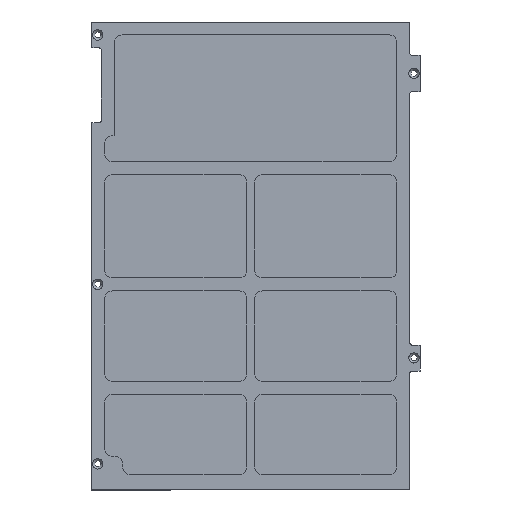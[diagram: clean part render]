
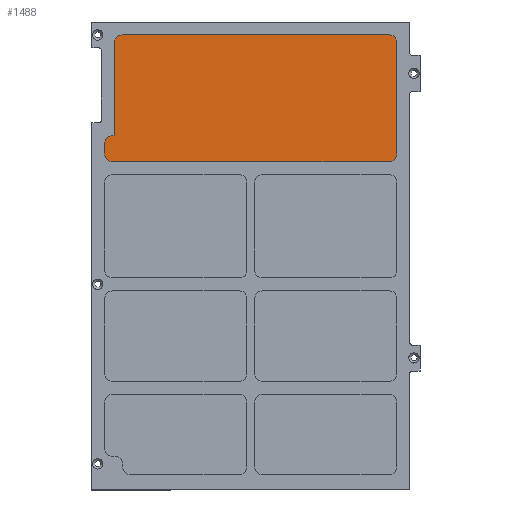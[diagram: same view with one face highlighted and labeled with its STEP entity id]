
A CAD part, top view. The second image highlights one B-rep face of the part: STEP entity #1488.
In plain terms, the highlighted planar face has unit normal (0, 0, 1).
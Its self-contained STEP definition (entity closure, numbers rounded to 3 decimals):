
#38 = DIRECTION ( 'NONE',  ( -1., 0., 0. ) ) ;
#145 = EDGE_CURVE ( 'NONE', #1898, #2933, #2318, .T. ) ;
#159 = CARTESIAN_POINT ( 'NONE',  ( 27.4, 122.9, 0.5 ) ) ;
#221 = DIRECTION ( 'NONE',  ( -1., 0., 0. ) ) ;
#229 = CARTESIAN_POINT ( 'NONE',  ( 134.4, 125.9, 0.5 ) ) ;
#244 = LINE ( 'NONE', #2405, #926 ) ;
#280 = EDGE_CURVE ( 'NONE', #2933, #3065, #3530, .T. ) ;
#380 = DIRECTION ( 'NONE',  ( 0., -1., 0. ) ) ;
#428 = LINE ( 'NONE', #2593, #3320 ) ;
#447 = CARTESIAN_POINT ( 'NONE',  ( 27.4, 129.9, 0.5 ) ) ;
#489 = DIRECTION ( 'NONE',  ( -1., 0., 0. ) ) ;
#541 = EDGE_CURVE ( 'NONE', #1796, #2878, #3395, .T. ) ;
#609 = DIRECTION ( 'NONE',  ( 1., 0., 0. ) ) ;
#614 = CARTESIAN_POINT ( 'NONE',  ( 134.4, 171.9, 0.5 ) ) ;
#691 = EDGE_CURVE ( 'NONE', #747, #2545, #1676, .T. ) ;
#714 = CARTESIAN_POINT ( 'NONE',  ( 0., 0., 0.5 ) ) ;
#735 = VECTOR ( 'NONE', #380, 1000. ) ;
#747 = VERTEX_POINT ( 'NONE', #1545 ) ;
#783 = ORIENTED_EDGE ( 'NONE', *, *, #145, .T. ) ;
#822 = CARTESIAN_POINT ( 'NONE',  ( 137.4, 168.9, 0.5 ) ) ;
#926 = VECTOR ( 'NONE', #2968, 1000. ) ;
#936 = CARTESIAN_POINT ( 'NONE',  ( 24.4, 132.9, 0.5 ) ) ;
#944 = LINE ( 'NONE', #2229, #2388 ) ;
#969 = ORIENTED_EDGE ( 'NONE', *, *, #3627, .F. ) ;
#983 = CARTESIAN_POINT ( 'NONE',  ( 24.4, 129.9, 0.5 ) ) ;
#1002 = DIRECTION ( 'NONE',  ( 0., 0., 1. ) ) ;
#1080 = ORIENTED_EDGE ( 'NONE', *, *, #2267, .T. ) ;
#1151 = CARTESIAN_POINT ( 'NONE',  ( 134.4, 122.9, 0.5 ) ) ;
#1165 = LINE ( 'NONE', #936, #2749 ) ;
#1235 = ORIENTED_EDGE ( 'NONE', *, *, #2310, .T. ) ;
#1274 = DIRECTION ( 'NONE',  ( 1., 0., 0. ) ) ;
#1377 = ORIENTED_EDGE ( 'NONE', *, *, #1631, .T. ) ;
#1406 = AXIS2_PLACEMENT_3D ( 'NONE', #2309, #2323, #609 ) ;
#1488 = ADVANCED_FACE ( 'NONE', ( #3032 ), #1856, .T. ) ;
#1507 = CARTESIAN_POINT ( 'NONE',  ( 27.4, 132.9, 0.5 ) ) ;
#1534 = DIRECTION ( 'NONE',  ( 0., 0., 1. ) ) ;
#1538 = ORIENTED_EDGE ( 'NONE', *, *, #2596, .T. ) ;
#1545 = CARTESIAN_POINT ( 'NONE',  ( 24.4, 125.9, 0.5 ) ) ;
#1546 = ORIENTED_EDGE ( 'NONE', *, *, #280, .T. ) ;
#1549 = EDGE_LOOP ( 'NONE', ( #969, #1538, #1235, #2433, #1080, #1377, #783, #1546, #2891, #3321, #2597 ) ) ;
#1562 = EDGE_CURVE ( 'NONE', #3065, #3478, #2020, .T. ) ;
#1631 = EDGE_CURVE ( 'NONE', #2082, #1898, #3255, .T. ) ;
#1641 = CARTESIAN_POINT ( 'NONE',  ( 31.1, 168.9, 0.5 ) ) ;
#1676 = CIRCLE ( 'NONE', #2513, 3. ) ;
#1692 = VERTEX_POINT ( 'NONE', #2263 ) ;
#1712 = AXIS2_PLACEMENT_3D ( 'NONE', #714, #1002, #1274 ) ;
#1745 = CARTESIAN_POINT ( 'NONE',  ( 28.1, 168.9, 0.5 ) ) ;
#1796 = VERTEX_POINT ( 'NONE', #822 ) ;
#1825 = CARTESIAN_POINT ( 'NONE',  ( 28.1, 171.9, 0.5 ) ) ;
#1856 = PLANE ( 'NONE',  #1712 ) ;
#1898 = VERTEX_POINT ( 'NONE', #1745 ) ;
#1908 = AXIS2_PLACEMENT_3D ( 'NONE', #447, #3324, #2775 ) ;
#2020 = CIRCLE ( 'NONE', #1908, 3. ) ;
#2082 = VERTEX_POINT ( 'NONE', #2472 ) ;
#2101 = CARTESIAN_POINT ( 'NONE',  ( 27.4, 125.9, 0.5 ) ) ;
#2129 = DIRECTION ( 'NONE',  ( 1., 0., 0. ) ) ;
#2136 = CIRCLE ( 'NONE', #3319, 3. ) ;
#2229 = CARTESIAN_POINT ( 'NONE',  ( 137.4, 122.9, 0.5 ) ) ;
#2246 = AXIS2_PLACEMENT_3D ( 'NONE', #1641, #3615, #3034 ) ;
#2263 = CARTESIAN_POINT ( 'NONE',  ( 137.4, 125.9, 0.5 ) ) ;
#2267 = EDGE_CURVE ( 'NONE', #2878, #2082, #428, .T. ) ;
#2309 = CARTESIAN_POINT ( 'NONE',  ( 134.4, 168.9, 0.5 ) ) ;
#2310 = EDGE_CURVE ( 'NONE', #1692, #1796, #244, .T. ) ;
#2318 = LINE ( 'NONE', #1825, #735 ) ;
#2323 = DIRECTION ( 'NONE',  ( 0., 0., 1. ) ) ;
#2388 = VECTOR ( 'NONE', #221, 1000. ) ;
#2405 = CARTESIAN_POINT ( 'NONE',  ( 137.4, 1.9, 0.5 ) ) ;
#2433 = ORIENTED_EDGE ( 'NONE', *, *, #541, .T. ) ;
#2472 = CARTESIAN_POINT ( 'NONE',  ( 31.1, 171.9, 0.5 ) ) ;
#2513 = AXIS2_PLACEMENT_3D ( 'NONE', #2101, #1534, #2129 ) ;
#2545 = VERTEX_POINT ( 'NONE', #159 ) ;
#2593 = CARTESIAN_POINT ( 'NONE',  ( 137.4, 171.9, 0.5 ) ) ;
#2596 = EDGE_CURVE ( 'NONE', #2833, #1692, #2136, .T. ) ;
#2597 = ORIENTED_EDGE ( 'NONE', *, *, #691, .T. ) ;
#2749 = VECTOR ( 'NONE', #3653, 1000. ) ;
#2758 = VECTOR ( 'NONE', #489, 1000. ) ;
#2775 = DIRECTION ( 'NONE',  ( 1., 0., 0. ) ) ;
#2812 = CARTESIAN_POINT ( 'NONE',  ( 28.1, 132.9, 0.5 ) ) ;
#2832 = DIRECTION ( 'NONE',  ( 1., 0., 0. ) ) ;
#2833 = VERTEX_POINT ( 'NONE', #1151 ) ;
#2878 = VERTEX_POINT ( 'NONE', #614 ) ;
#2891 = ORIENTED_EDGE ( 'NONE', *, *, #1562, .T. ) ;
#2933 = VERTEX_POINT ( 'NONE', #3448 ) ;
#2968 = DIRECTION ( 'NONE',  ( 0., 1., 0. ) ) ;
#3032 = FACE_OUTER_BOUND ( 'NONE', #1549, .T. ) ;
#3034 = DIRECTION ( 'NONE',  ( 1., 0., 0. ) ) ;
#3065 = VERTEX_POINT ( 'NONE', #1507 ) ;
#3098 = DIRECTION ( 'NONE',  ( 0., 0., 1. ) ) ;
#3255 = CIRCLE ( 'NONE', #2246, 3. ) ;
#3319 = AXIS2_PLACEMENT_3D ( 'NONE', #229, #3098, #2832 ) ;
#3320 = VECTOR ( 'NONE', #38, 1000. ) ;
#3321 = ORIENTED_EDGE ( 'NONE', *, *, #3450, .T. ) ;
#3324 = DIRECTION ( 'NONE',  ( 0., 0., 1. ) ) ;
#3395 = CIRCLE ( 'NONE', #1406, 3. ) ;
#3448 = CARTESIAN_POINT ( 'NONE',  ( 28.1, 132.9, 0.5 ) ) ;
#3450 = EDGE_CURVE ( 'NONE', #3478, #747, #1165, .T. ) ;
#3478 = VERTEX_POINT ( 'NONE', #983 ) ;
#3530 = LINE ( 'NONE', #2812, #2758 ) ;
#3615 = DIRECTION ( 'NONE',  ( 0., 0., 1. ) ) ;
#3627 = EDGE_CURVE ( 'NONE', #2833, #2545, #944, .T. ) ;
#3653 = DIRECTION ( 'NONE',  ( 0., -1., 0. ) ) ;
